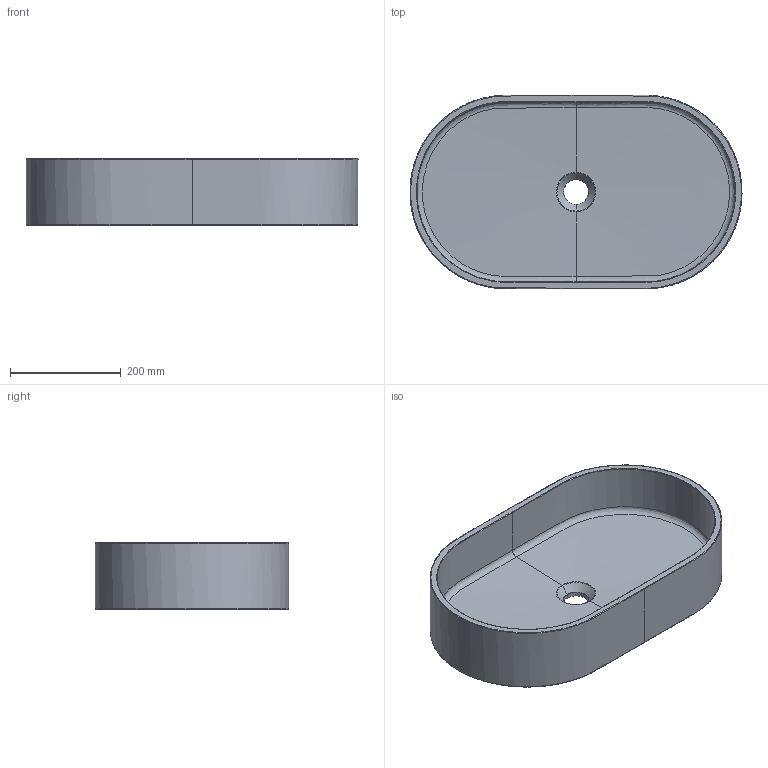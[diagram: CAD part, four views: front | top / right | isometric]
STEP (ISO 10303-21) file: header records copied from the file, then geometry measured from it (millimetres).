
FILE_DESCRIPTION(/* description */ (''),/* implementation_level */ '2;1');
FILE_NAME(/* name */ '0010',/* time_stamp */ '2023-05-30T11:40:05+08:00',/* author */ (''),/* organization */ (''),/* preprocessor_version */ 'ST-DEVELOPER v16.5',/* originating_system */ '',/* authorisation */ '');
FILE_SCHEMA (('AUTOMOTIVE_DESIGN'));
Length unit declared in the file: centimetre
Products named in the file (1): Document
Bounding box: 599.89 x 350 x 120 mm (x, y, z)
Volume: 6344030.8 mm3; surface area: 693268.4 mm2
Topology: 1 solids, 1 shells, 24 faces, 65 edges, 51 vertices
Faces by surface type: bspline 24
Entity records: 5747 total; most frequent: CARTESIAN_POINT 5057, B_SPLINE_CURVE_WITH_KNOTS 120, ORIENTED_EDGE 102, PCURVE 102, DEFINITIONAL_REPRESENTATION 102, SURFACE_CURVE 51, EDGE_CURVE 51, VERTEX_POINT 29
